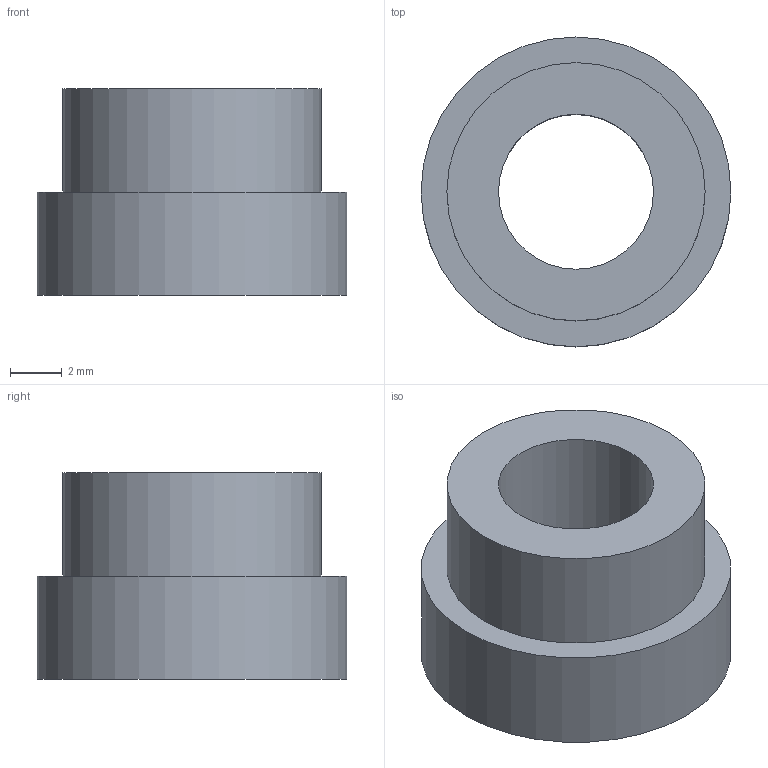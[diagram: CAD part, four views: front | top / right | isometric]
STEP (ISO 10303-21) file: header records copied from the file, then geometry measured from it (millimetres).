
FILE_DESCRIPTION(/* description */ ('Bushing Mendrel'),/* implementation_level */ '2;1');
FILE_NAME(/* name */ 'Z:\Werkstatt Server\Projekte\Atlas\Entwicklung u. Konstruktion\Konstruktion\CAD Daten\ITkPixToolV2.0\Baremodule Jig\ITPTv2.01.00.18.stp',/* time_stamp */ '2021-08-06T14:56:31+02:00',/* author */ ('Tim Kanngießer'),/* organization */ (''),/* preprocessor_version */ 'ST-DEVELOPER v18.1',/* originating_system */ 'Autodesk Inventor 2022',/* authorisation */ '');
FILE_SCHEMA (('AUTOMOTIVE_DESIGN { 1 0 10303 214 3 1 1 }'));
Length unit declared in the file: millimetre
Products named in the file (1): ITPTv2.01.00.18
Bounding box: 12 x 12 x 8 mm (x, y, z)
Volume: 540.4 mm3; surface area: 596.9 mm2
Topology: 1 solids, 1 shells, 6 faces, 9 edges, 6 vertices
Faces by surface type: cylinder 3, plane 3
Full cylindrical faces by diameter (mm): 6 x1, 10 x1, 12 x1
Entity records: 193 total; most frequent: DIRECTION 29, CARTESIAN_POINT 22, ORIENTED_EDGE 18, AXIS2_PLACEMENT_3D 13, EDGE_LOOP 9, EDGE_CURVE 9, FACE_OUTER_BOUND 6, CIRCLE 6
